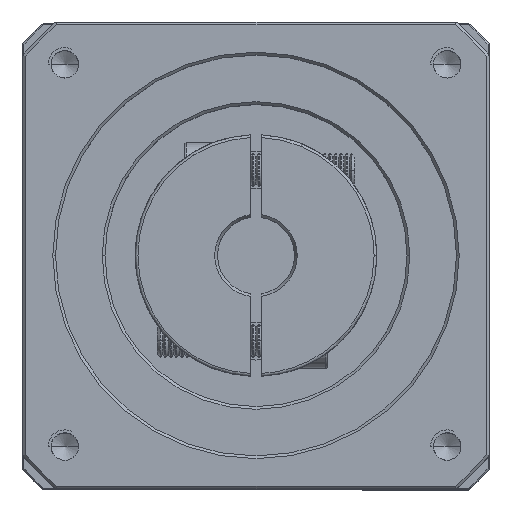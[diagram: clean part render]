
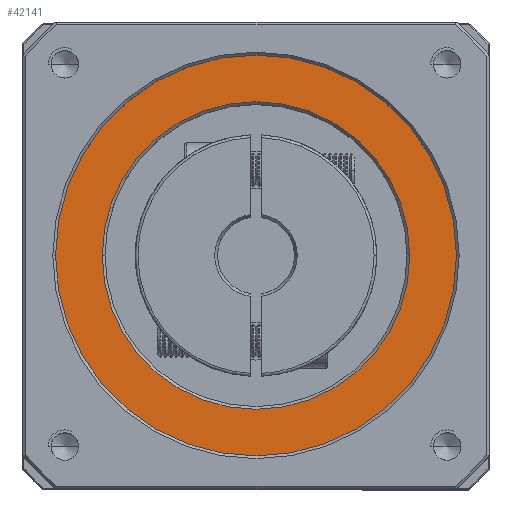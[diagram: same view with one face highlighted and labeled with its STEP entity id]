
A CAD part, top view. The second image highlights one B-rep face of the part: STEP entity #42141.
In plain terms, the highlighted planar face has unit normal (0, 0, 1).
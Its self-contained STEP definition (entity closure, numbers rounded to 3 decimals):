
#1547 = AXIS2_PLACEMENT_3D ( 'NONE', #26111, #86823, #34880 ) ;
#6185 = CIRCLE ( 'NONE', #1547, 28. ) ;
#9994 = CARTESIAN_POINT ( 'NONE',  ( 45.088, 7.351, 102.5 ) ) ;
#15595 = CARTESIAN_POINT ( 'NONE',  ( 8.588, 7.351, 102.5 ) ) ;
#16601 = AXIS2_PLACEMENT_3D ( 'NONE', #39501, #100190, #48244 ) ;
#18781 = DIRECTION ( 'NONE',  ( 1., 0., 0. ) ) ;
#22354 = EDGE_CURVE ( 'NONE', #49854, #90171, #6185, .T. ) ;
#26111 = CARTESIAN_POINT ( 'NONE',  ( 45.088, 7.351, 102.5 ) ) ;
#28709 = AXIS2_PLACEMENT_3D ( 'NONE', #9994, #70826, #18781 ) ;
#34880 = DIRECTION ( 'NONE',  ( 1., 0., 0. ) ) ;
#34924 = CIRCLE ( 'NONE', #101133, 36.5 ) ;
#35732 = CARTESIAN_POINT ( 'NONE',  ( 73.088, 7.351, 102.5 ) ) ;
#38009 = CIRCLE ( 'NONE', #28709, 28. ) ;
#39501 = CARTESIAN_POINT ( 'NONE',  ( 45.088, 7.351, 102.5 ) ) ;
#40787 = CARTESIAN_POINT ( 'NONE',  ( 45.088, 7.351, 102.5 ) ) ;
#42141 = ADVANCED_FACE ( 'NONE', ( #108916, #88518 ), #56546, .T. ) ;
#44525 = VERTEX_POINT ( 'NONE', #15595 ) ;
#47442 = CARTESIAN_POINT ( 'NONE',  ( 45.088, 7.351, 102.5 ) ) ;
#48244 = DIRECTION ( 'NONE',  ( 1., 0., 0. ) ) ;
#49503 = DIRECTION ( 'NONE',  ( 1., 0., 0. ) ) ;
#49854 = VERTEX_POINT ( 'NONE', #35732 ) ;
#53228 = VERTEX_POINT ( 'NONE', #98030 ) ;
#56127 = DIRECTION ( 'NONE',  ( 1., 0., 0. ) ) ;
#56497 = EDGE_CURVE ( 'NONE', #90171, #49854, #38009, .T. ) ;
#56546 = PLANE ( 'NONE',  #16601 ) ;
#58106 = AXIS2_PLACEMENT_3D ( 'NONE', #47442, #108099, #56127 ) ;
#59051 = ORIENTED_EDGE ( 'NONE', *, *, #91356, .T. ) ;
#61223 = ORIENTED_EDGE ( 'NONE', *, *, #109115, .T. ) ;
#66818 = ORIENTED_EDGE ( 'NONE', *, *, #22354, .T. ) ;
#68764 = ORIENTED_EDGE ( 'NONE', *, *, #56497, .T. ) ;
#70826 = DIRECTION ( 'NONE',  ( 0., 0., -1. ) ) ;
#74943 = EDGE_LOOP ( 'NONE', ( #66818, #68764 ) ) ;
#76126 = EDGE_LOOP ( 'NONE', ( #59051, #61223 ) ) ;
#81676 = CIRCLE ( 'NONE', #58106, 36.5 ) ;
#86823 = DIRECTION ( 'NONE',  ( 0., 0., -1. ) ) ;
#88518 = FACE_BOUND ( 'NONE', #74943, .T. ) ;
#90171 = VERTEX_POINT ( 'NONE', #103758 ) ;
#91356 = EDGE_CURVE ( 'NONE', #53228, #44525, #34924, .T. ) ;
#98030 = CARTESIAN_POINT ( 'NONE',  ( 81.588, 7.351, 102.5 ) ) ;
#100190 = DIRECTION ( 'NONE',  ( 0., 0., 1. ) ) ;
#101133 = AXIS2_PLACEMENT_3D ( 'NONE', #40787, #101455, #49503 ) ;
#101455 = DIRECTION ( 'NONE',  ( 0., 0., 1. ) ) ;
#103758 = CARTESIAN_POINT ( 'NONE',  ( 17.088, 7.351, 102.5 ) ) ;
#108099 = DIRECTION ( 'NONE',  ( 0., 0., 1. ) ) ;
#108916 = FACE_OUTER_BOUND ( 'NONE', #76126, .T. ) ;
#109115 = EDGE_CURVE ( 'NONE', #44525, #53228, #81676, .T. ) ;
